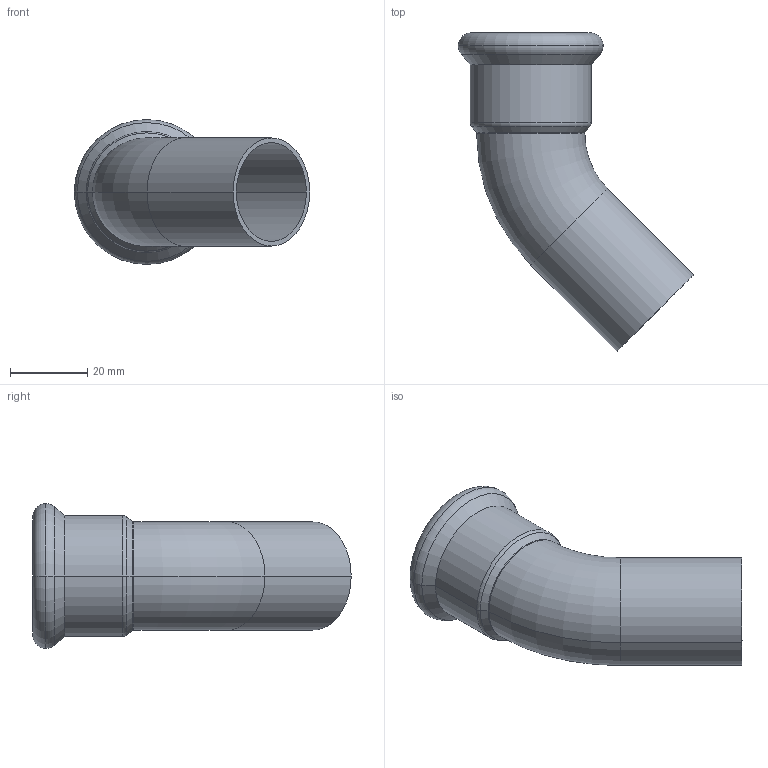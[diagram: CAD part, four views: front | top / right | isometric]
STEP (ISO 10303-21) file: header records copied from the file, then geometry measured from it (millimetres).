
FILE_DESCRIPTION(('OneSpaceDesigner STEP Export'),'2;1');
FILE_NAME('R2712 28x28.stp','2010-06-09T15:22:06',(''),(''),'OneSpace Designer STEP processor for AP214 (Solid Model)','OneSpace Modeling 15.00A 14-Mar-2007 (C) CoCreate Software GmbH','');
FILE_SCHEMA(('AUTOMOTIVE_DESIGN { 1 0 10303 214 1 1 1 1 }'));
Length unit declared in the file: millimetre
Products named in the file (2): R2712_28x28
Assembly tree (1 placements, depth 2):
  R2712_28x28
    R2712_28x28
Bounding box: 60.87 x 82.34 x 37.45 mm (x, y, z)
Volume: 11819 mm3; surface area: 16251.8 mm2
Topology: 1 solids, 1 shells, 68 faces, 167 edges, 106 vertices
Faces by surface type: plane 31, cylinder 23, torus 10, cone 4
Entity records: 1823 total; most frequent: ORIENTED_EDGE 334, CARTESIAN_POINT 292, DIRECTION 279, EDGE_CURVE 167, VERTEX_POINT 106, AXIS2_PLACEMENT_3D 93, VECTOR 93, LINE 93
